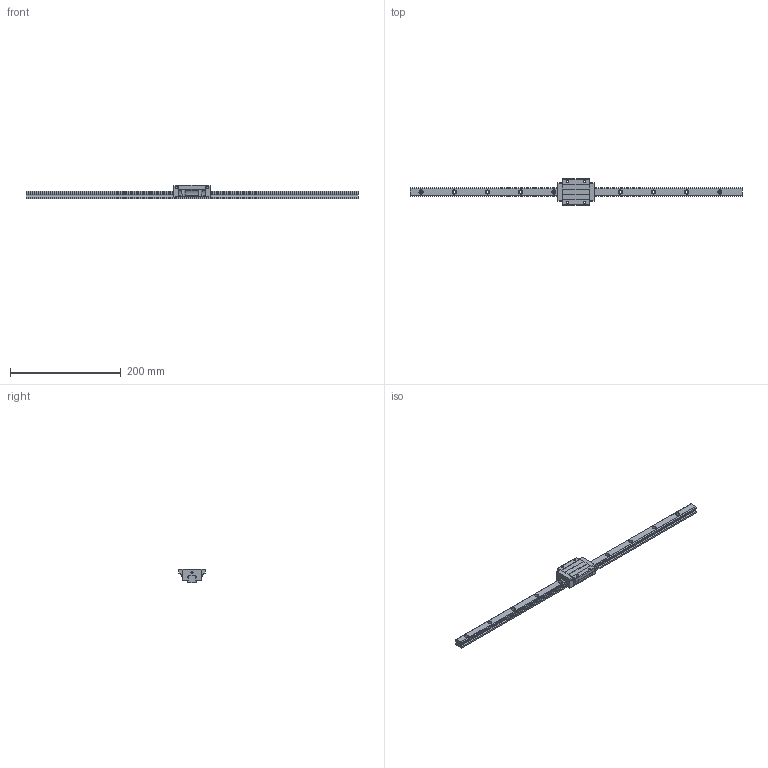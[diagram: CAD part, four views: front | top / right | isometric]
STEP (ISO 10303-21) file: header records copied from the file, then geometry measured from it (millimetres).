
FILE_DESCRIPTION (( 'STEP AP203' ), '1' );
FILE_NAME ('TRH15FL-XN.STEP', '2024-05-09T04:01:04', ( '' ), ( '' ), 'SwSTEP 2.0', 'SolidWorks 2022', '' );
FILE_SCHEMA (( 'CONFIG_CONTROL_DESIGN' ));
Length unit declared in the file: millimetre
Products named in the file (1): TRH15FL-XN
Bounding box: 600 x 47 x 24 mm (x, y, z)
Volume: 140923.2 mm3; surface area: 48664.8 mm2
Topology: 2 solids, 2 shells, 236 faces, 636 edges, 420 vertices
Faces by surface type: cylinder 120, plane 116
Entity records: 7979 total; most frequent: CARTESIAN_POINT 1773, DIRECTION 1294, ORIENTED_EDGE 1272, EDGE_CURVE 636, AXIS2_PLACEMENT_3D 453, VERTEX_POINT 420, VECTOR 388, LINE 388
